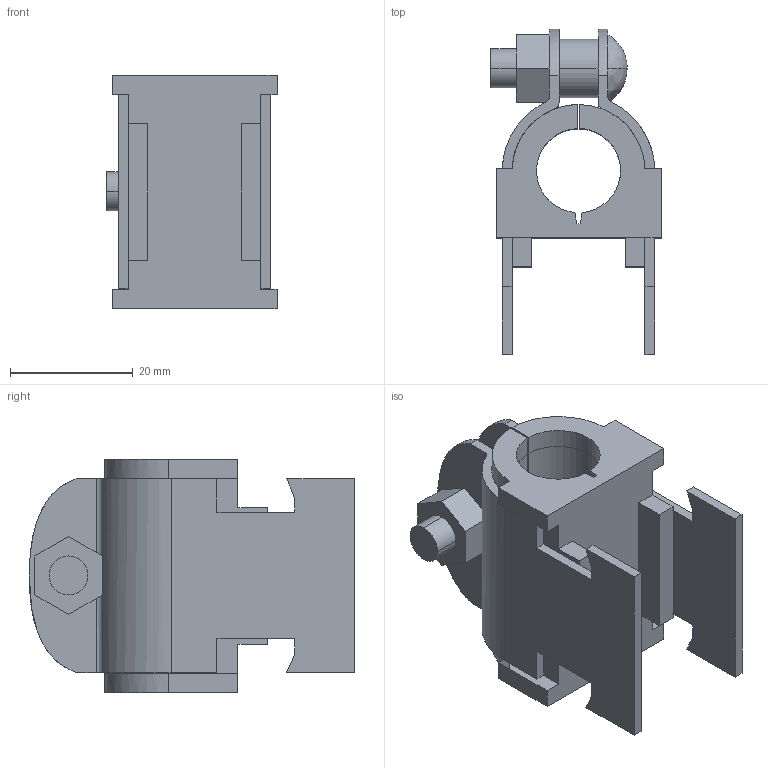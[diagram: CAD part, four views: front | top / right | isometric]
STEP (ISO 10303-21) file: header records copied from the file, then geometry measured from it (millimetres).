
FILE_DESCRIPTION(('TurboCAD Mac Pro'),'Build 980');
FILE_NAME('009N012.stp',' ',(''),(''),'ACIS Interop','IMSI','TurboCAD Mac Pro BY IMSI, INCORPORATED');
FILE_SCHEMA(('automotive_design'));
Length unit declared in the file: inch
Products named in the file (6): 1; 2; 3; 4; 5; 6
Bounding box: 27.75 x 53.1 x 38.1 mm (x, y, z)
Volume: 18238 mm3; surface area: 14643.5 mm2
Topology: 6 solids, 6 shells, 134 faces, 350 edges, 229 vertices
Faces by surface type: plane 92, bspline 42
Entity records: 7895 total; most frequent: CARTESIAN_POINT 1939, ORIENTED_EDGE 700, STYLED_ITEM 490, PRESENTATION_STYLE_ASSIGNMENT 490, COLOUR_RGB 490, DIRECTION 463, EDGE_CURVE 350, CURVE_STYLE 350
